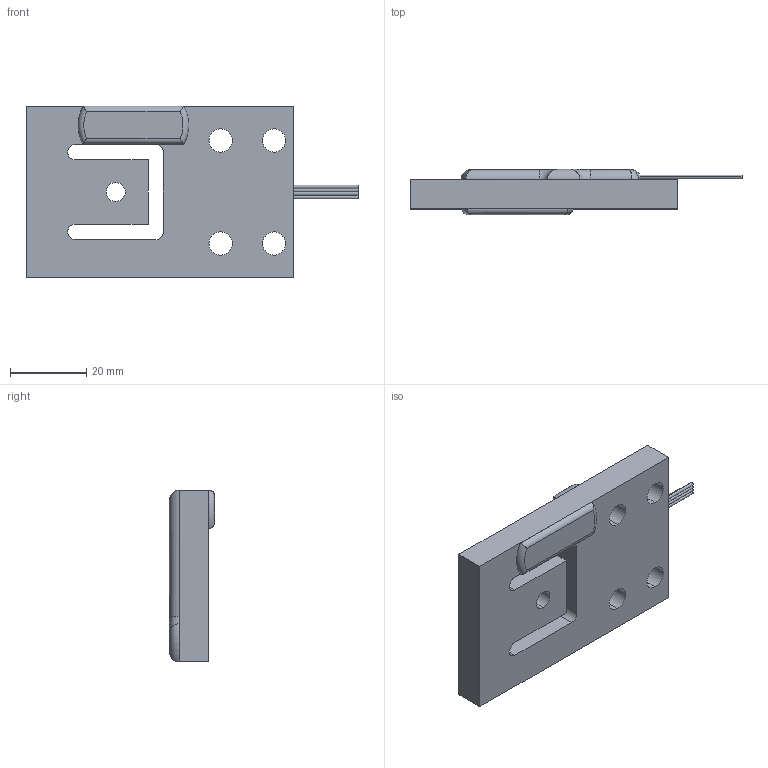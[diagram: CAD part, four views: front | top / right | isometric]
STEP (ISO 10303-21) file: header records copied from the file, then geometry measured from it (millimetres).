
FILE_DESCRIPTION (( 'STEP AP203' ), '1' );
FILE_NAME ('FHA-300KG.STEP', '2024-07-18T00:31:01', ( '' ), ( '' ), 'SwSTEP 2.0', 'SolidWorks 2019', '' );
FILE_SCHEMA (( 'CONFIG_CONTROL_DESIGN' ));
Length unit declared in the file: millimetre
Products named in the file (1): FHA-300KG
Bounding box: 87 x 11.85 x 45 mm (x, y, z)
Volume: 23500.7 mm3; surface area: 11817.1 mm2
Topology: 7 solids, 7 shells, 65 faces, 153 edges, 100 vertices
Faces by surface type: cylinder 32, plane 24, torus 7, bspline 2
Entity records: 2164 total; most frequent: CARTESIAN_POINT 554, DIRECTION 332, ORIENTED_EDGE 302, EDGE_CURVE 151, AXIS2_PLACEMENT_3D 130, VERTEX_POINT 100, EDGE_LOOP 77, VECTOR 72
